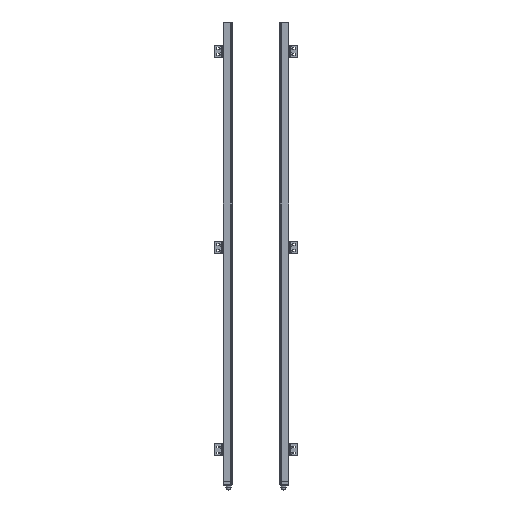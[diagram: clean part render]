
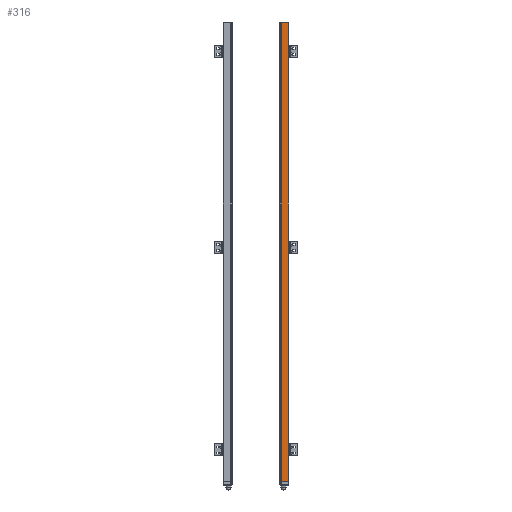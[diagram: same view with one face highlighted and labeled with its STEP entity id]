
A CAD part, top view. The second image highlights one B-rep face of the part: STEP entity #316.
In plain terms, the highlighted planar face has unit normal (0, 0, 1).
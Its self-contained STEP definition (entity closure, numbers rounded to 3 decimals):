
#316 = ADVANCED_FACE( '', ( #734 ), #735, .F. );
#734 = FACE_OUTER_BOUND( '', #1452, .T. );
#735 = PLANE( '', #1453 );
#1452 = EDGE_LOOP( '', ( #2754, #2755, #2756, #2757 ) );
#1453 = AXIS2_PLACEMENT_3D( '', #2758, #2759, #2760 );
#2754 = ORIENTED_EDGE( '', *, *, #5011, .T. );
#2755 = ORIENTED_EDGE( '', *, *, #4927, .T. );
#2756 = ORIENTED_EDGE( '', *, *, #5010, .F. );
#2757 = ORIENTED_EDGE( '', *, *, #4792, .F. );
#2758 = CARTESIAN_POINT( '', ( 3.66, 1547.5, 14.01 ) );
#2759 = DIRECTION( '', ( 0., 0., -1. ) );
#2760 = DIRECTION( '', ( -1., 0., 0. ) );
#4792 = EDGE_CURVE( '', #5745, #5747, #5748, .T. );
#4927 = EDGE_CURVE( '', #6001, #5999, #6002, .T. );
#5010 = EDGE_CURVE( '', #5747, #5999, #6129, .T. );
#5011 = EDGE_CURVE( '', #5745, #6001, #6130, .T. );
#5745 = VERTEX_POINT( '', #7322 );
#5747 = VERTEX_POINT( '', #7324 );
#5748 = LINE( '', #7325, #7326 );
#5999 = VERTEX_POINT( '', #7650 );
#6001 = VERTEX_POINT( '', #7652 );
#6002 = LINE( '', #7653, #7654 );
#6129 = LINE( '', #7839, #7840 );
#6130 = LINE( '', #7841, #7842 );
#7322 = CARTESIAN_POINT( '', ( 3.66, 1544.5, 14.01 ) );
#7324 = CARTESIAN_POINT( '', ( 27.672, 1544.5, 14.01 ) );
#7325 = CARTESIAN_POINT( '', ( 3.66, 1544.5, 14.01 ) );
#7326 = VECTOR( '', #9185, 1000. );
#7650 = CARTESIAN_POINT( '', ( 27.672, 14., 14.01 ) );
#7652 = CARTESIAN_POINT( '', ( 3.66, 14., 14.01 ) );
#7653 = CARTESIAN_POINT( '', ( 3.66, 14., 14.01 ) );
#7654 = VECTOR( '', #9442, 1000. );
#7839 = CARTESIAN_POINT( '', ( 27.672, 1547.5, 14.01 ) );
#7840 = VECTOR( '', #9573, 1000. );
#7841 = CARTESIAN_POINT( '', ( 3.66, 1547.5, 14.01 ) );
#7842 = VECTOR( '', #9574, 1000. );
#9185 = DIRECTION( '', ( 1., 0., 0. ) );
#9442 = DIRECTION( '', ( 1., 0., 0. ) );
#9573 = DIRECTION( '', ( 0., -1., 0. ) );
#9574 = DIRECTION( '', ( 0., -1., 0. ) );
